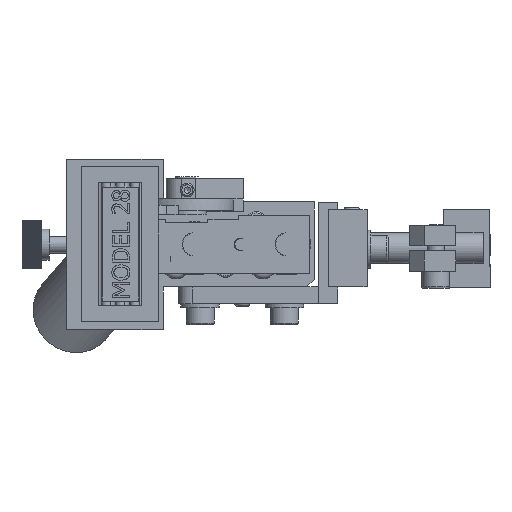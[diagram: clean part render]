
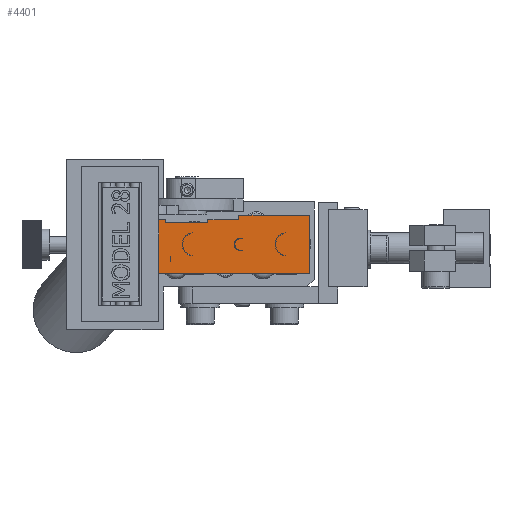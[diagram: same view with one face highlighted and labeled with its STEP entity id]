
A CAD part, front view. The second image highlights one B-rep face of the part: STEP entity #4401.
In plain terms, the highlighted planar face has unit normal (0, -1, 0).
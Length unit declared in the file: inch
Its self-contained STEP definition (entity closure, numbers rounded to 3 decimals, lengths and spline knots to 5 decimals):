
#186=CARTESIAN_POINT('',(-0.00359,-1.95331,-0.38897));
#187=VERTEX_POINT('',#186);
#188=CARTESIAN_POINT('',(-0.00359,-1.95331,-0.29703));
#189=VERTEX_POINT('',#188);
#216=CARTESIAN_POINT('',(-0.01557,-1.95331,-0.343));
#217=DIRECTION('',(0.0,1.0,0.0));
#218=DIRECTION('',(0.0,0.0,-1.0));
#219=AXIS2_PLACEMENT_3D('',#216,#217,#218);
#220=CIRCLE('',#219,0.0475);
#221=EDGE_CURVE('',#187,#189,#220,.T.);
#262=CARTESIAN_POINT('',(-0.02057,-1.95331,-0.343));
#263=DIRECTION('',(0.0,1.0,0.0));
#264=DIRECTION('',(-1.0,0.0,0.0));
#265=AXIS2_PLACEMENT_3D('',#262,#263,#264);
#266=CIRCLE('',#265,0.049);
#267=EDGE_CURVE('',#187,#189,#266,.T.);
#310=CARTESIAN_POINT('',(0.54143,-1.95331,-0.579));
#311=VERTEX_POINT('',#310);
#312=CARTESIAN_POINT('',(0.54143,-1.95331,-0.106));
#313=VERTEX_POINT('',#312);
#314=CARTESIAN_POINT('',(0.54143,-1.95331,-0.579));
#315=DIRECTION('',(0.0,0.0,1.0));
#316=VECTOR('',#315,0.473);
#317=LINE('',#314,#316);
#318=EDGE_CURVE('',#311,#313,#317,.T.);
#934=CARTESIAN_POINT('',(-0.03157,-1.95331,-0.106));
#935=VERTEX_POINT('',#934);
#942=CARTESIAN_POINT('',(0.54143,-1.95331,-0.106));
#943=DIRECTION('',(-1.0,0.0,0.0));
#944=VECTOR('',#943,0.573);
#945=LINE('',#942,#944);
#946=EDGE_CURVE('',#313,#935,#945,.T.);
#1105=CARTESIAN_POINT('',(-0.62483,-1.95331,-0.143));
#1106=VERTEX_POINT('',#1105);
#1113=CARTESIAN_POINT('',(-0.62483,-1.95331,-0.168));
#1114=VERTEX_POINT('',#1113);
#1115=CARTESIAN_POINT('',(-0.62483,-1.95331,-0.168));
#1116=DIRECTION('',(0.0,0.0,1.0));
#1117=VECTOR('',#1116,0.025);
#1118=LINE('',#1115,#1117);
#1119=EDGE_CURVE('',#1114,#1106,#1118,.T.);
#1136=CARTESIAN_POINT('',(-0.03157,-1.95331,-0.14286));
#1137=VERTEX_POINT('',#1136);
#1144=CARTESIAN_POINT('',(-0.03157,-1.95331,-0.106));
#1145=DIRECTION('',(0.0,0.0,-1.0));
#1146=VECTOR('',#1145,0.03686);
#1147=LINE('',#1144,#1146);
#1148=EDGE_CURVE('',#935,#1137,#1147,.T.);
#1160=CARTESIAN_POINT('',(-0.28183,-1.95331,-0.14286));
#1161=VERTEX_POINT('',#1160);
#1168=CARTESIAN_POINT('',(-0.03157,-1.95331,-0.14286));
#1169=DIRECTION('',(-1.0,0.0,0.0));
#1170=VECTOR('',#1169,0.25026);
#1171=LINE('',#1168,#1170);
#1172=EDGE_CURVE('',#1137,#1161,#1171,.T.);
#1184=CARTESIAN_POINT('',(-0.28183,-1.95331,-0.168));
#1185=VERTEX_POINT('',#1184);
#1192=CARTESIAN_POINT('',(-0.28183,-1.95331,-0.14286));
#1193=DIRECTION('',(0.0,0.0,-1.0));
#1194=VECTOR('',#1193,0.02514);
#1195=LINE('',#1192,#1194);
#1196=EDGE_CURVE('',#1161,#1185,#1195,.T.);
#1209=CARTESIAN_POINT('',(-0.28183,-1.95331,-0.168));
#1210=DIRECTION('',(-1.0,0.0,0.0));
#1211=VECTOR('',#1210,0.343);
#1212=LINE('',#1209,#1211);
#1213=EDGE_CURVE('',#1185,#1114,#1212,.T.);
#1245=CARTESIAN_POINT('',(0.34758,-1.95331,-0.25));
#1246=VERTEX_POINT('',#1245);
#1253=CARTESIAN_POINT('',(0.34758,-1.95331,-0.436));
#1254=VERTEX_POINT('',#1253);
#1255=CARTESIAN_POINT('',(0.35443,-1.95331,-0.343));
#1256=DIRECTION('',(0.0,1.0,0.0));
#1257=DIRECTION('',(-1.0,0.0,0.0));
#1258=AXIS2_PLACEMENT_3D('',#1255,#1256,#1257);
#1259=CIRCLE('',#1258,0.09325);
#1260=EDGE_CURVE('',#1254,#1246,#1259,.T.);
#2842=CARTESIAN_POINT('',(-0.80258,-1.95331,-0.579));
#2843=VERTEX_POINT('',#2842);
#2852=CARTESIAN_POINT('',(-0.80258,-1.95331,-0.579));
#2853=DIRECTION('',(1.0,0.0,0.0));
#2854=VECTOR('',#2853,1.34401);
#2855=LINE('',#2852,#2854);
#2856=EDGE_CURVE('',#2843,#311,#2855,.T.);
#2882=CARTESIAN_POINT('',(-0.80258,-1.95331,-0.143));
#2883=VERTEX_POINT('',#2882);
#2890=CARTESIAN_POINT('',(-0.62483,-1.95331,-0.143));
#2891=DIRECTION('',(-1.0,0.0,0.0));
#2892=VECTOR('',#2891,0.17775);
#2893=LINE('',#2890,#2892);
#2894=EDGE_CURVE('',#1106,#2883,#2893,.T.);
#3022=CARTESIAN_POINT('',(-0.80258,-1.95331,-0.143));
#3023=DIRECTION('',(0.0,0.0,-1.0));
#3024=VECTOR('',#3023,0.436);
#3025=LINE('',#3022,#3024);
#3026=EDGE_CURVE('',#2883,#2843,#3025,.T.);
#4234=CARTESIAN_POINT('',(-0.40242,-1.95331,-0.25));
#4235=VERTEX_POINT('',#4234);
#4242=CARTESIAN_POINT('',(-0.40242,-1.95331,-0.436));
#4243=VERTEX_POINT('',#4242);
#4244=CARTESIAN_POINT('',(-0.39557,-1.95331,-0.343));
#4245=DIRECTION('',(0.0,1.0,0.0));
#4246=DIRECTION('',(-1.0,0.0,0.0));
#4247=AXIS2_PLACEMENT_3D('',#4244,#4245,#4246);
#4248=CIRCLE('',#4247,0.09325);
#4249=EDGE_CURVE('',#4243,#4235,#4248,.T.);
#4295=CARTESIAN_POINT('',(-0.39057,-1.95331,-0.343));
#4296=DIRECTION('',(0.0,-1.0,0.0));
#4297=DIRECTION('',(-1.0,0.0,0.0));
#4298=AXIS2_PLACEMENT_3D('',#4295,#4296,#4297);
#4299=CIRCLE('',#4298,0.09375);
#4300=EDGE_CURVE('',#4235,#4243,#4299,.T.);
#4366=CARTESIAN_POINT('',(0.54143,-1.95331,-0.579));
#4367=DIRECTION('',(0.0,-1.0,0.0));
#4368=DIRECTION('',(0.0,0.0,-1.0));
#4369=AXIS2_PLACEMENT_3D('',#4366,#4367,#4368);
#4370=PLANE('',#4369);
#4371=ORIENTED_EDGE('',*,*,#3026,.T.);
#4372=ORIENTED_EDGE('',*,*,#2856,.T.);
#4373=ORIENTED_EDGE('',*,*,#318,.T.);
#4374=ORIENTED_EDGE('',*,*,#946,.T.);
#4375=ORIENTED_EDGE('',*,*,#1148,.T.);
#4376=ORIENTED_EDGE('',*,*,#1172,.T.);
#4377=ORIENTED_EDGE('',*,*,#1196,.T.);
#4378=ORIENTED_EDGE('',*,*,#1213,.T.);
#4379=ORIENTED_EDGE('',*,*,#1119,.T.);
#4380=ORIENTED_EDGE('',*,*,#2894,.T.);
#4381=EDGE_LOOP('',(#4371,#4372,#4373,#4374,#4375,#4376,#4377,#4378,#4379,#4380));
#4382=FACE_OUTER_BOUND('',#4381,.T.);
#4383=ORIENTED_EDGE('',*,*,#267,.T.);
#4384=ORIENTED_EDGE('',*,*,#221,.F.);
#4385=EDGE_LOOP('',(#4383,#4384));
#4386=FACE_BOUND('',#4385,.T.);
#4387=ORIENTED_EDGE('',*,*,#1260,.T.);
#4388=CARTESIAN_POINT('',(0.35943,-1.95331,-0.343));
#4389=DIRECTION('',(0.0,-1.0,0.0));
#4390=DIRECTION('',(-1.0,0.0,0.0));
#4391=AXIS2_PLACEMENT_3D('',#4388,#4389,#4390);
#4392=CIRCLE('',#4391,0.09375);
#4393=EDGE_CURVE('',#1246,#1254,#4392,.T.);
#4394=ORIENTED_EDGE('',*,*,#4393,.T.);
#4395=EDGE_LOOP('',(#4387,#4394));
#4396=FACE_BOUND('',#4395,.T.);
#4397=ORIENTED_EDGE('',*,*,#4249,.T.);
#4398=ORIENTED_EDGE('',*,*,#4300,.T.);
#4399=EDGE_LOOP('',(#4397,#4398));
#4400=FACE_BOUND('',#4399,.T.);
#4401=ADVANCED_FACE('',(#4382,#4386,#4396,#4400),#4370,.T.);
